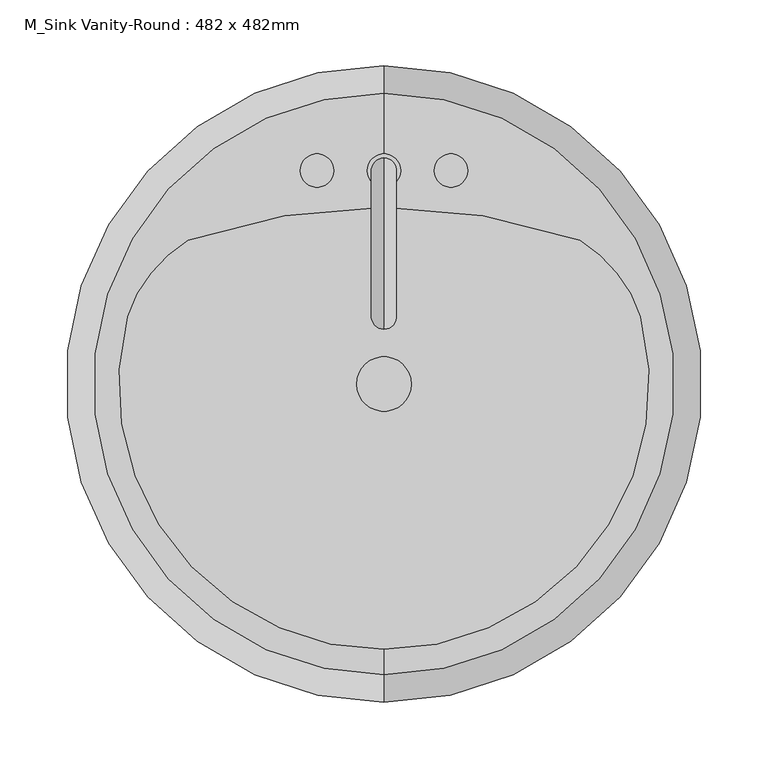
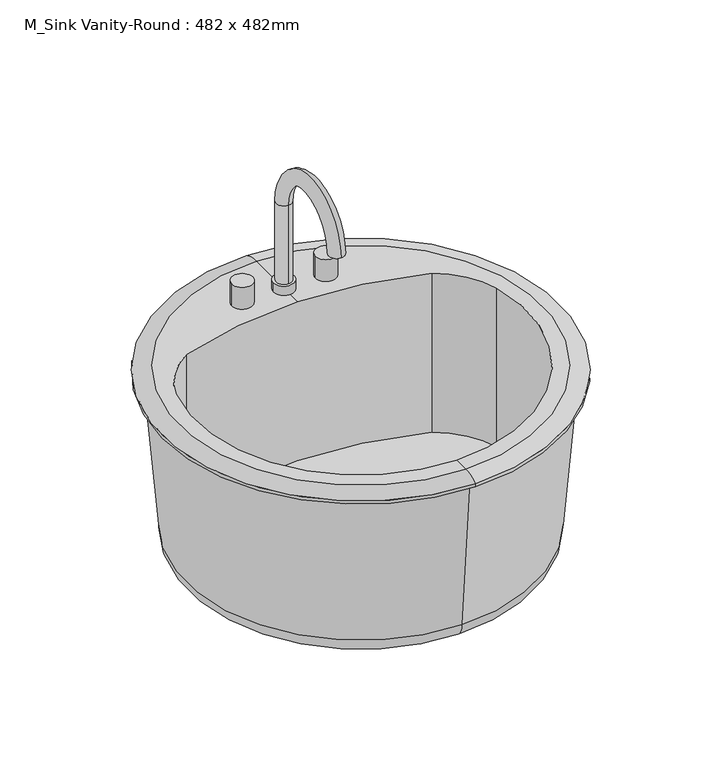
"""IFC4 building model written with IfcOpenShell, lengths in millimetres: flow terminal geometry, M_Sink Vanity-Round : 482 x 482mm."""

from ifc_helpers import new_model, si_unit, point, frame, frame_2d, origin, place, context, project, spatial, polyline, circle_curve, ellipse_curve, trimmed, segment, composite_curve, outline, extrude, source, transform, mapped, element, save
from ifc_brep_helpers import plane_surface, cylinder_surface, revolved_surface, advanced_brep


def m_sink_vanity_round_482_x_482mm_5483c1b3(model_context):
    return source(origin(), model_context, "Body", "SolidModel", [
        extrude(outline(composite_curve([segment(trimmed(circle_curve(frame_2d((96.6517406, 85.1677185)), 20.6375), [point((76.0142406, 85.1677185))], [point((117.2892406, 85.1677185))], False, "CARTESIAN"), True, "CONTINUOUS"), segment(trimmed(circle_curve(frame_2d((96.6517406, 85.1677185)), 20.6375), [point((117.2892406, 85.1677185))], [point((76.0142406, 85.1677185))], False, "CARTESIAN"), True, "CONTINUOUS")], self_intersect=False)), frame((0.0, 0.0, 534.19), z_axis=(0.0, 0.0, 1.0), x_axis=(1.0, 0.0, 0.0)), (0.0, 0.0, 1.0), 21.1842611),
        advanced_brep(
        [(96.6517406, -135.3870093, 759.615), (96.6517406, 305.7224463, 759.615), (96.6517406, 326.4677185, 754.05875), (96.6517406, -156.1322815, 754.05875), (96.6517406, -116.2405705, 759.615), (-98.1703414, 136.2525038, 759.615), (-52.1534933, 194.0861398, 759.615), (96.6517406, 219.2662048, 759.615), (245.4569744, 194.0861398, 759.615), (291.4738225, 136.2525038, 759.615), (96.6517406, -107.1264028, 534.19), (96.6517406, 277.4618398, 534.19), (96.6517406, 85.1677185, 534.19), (96.6517406, -127.6827361, 555.3742611), (96.6517406, 298.0181731, 555.3742611), (96.6517406, -144.2260315, 750.09), (96.6517406, 314.5614685, 750.09), (96.6517406, -156.1322815, 750.09), (96.6517406, 326.4677185, 750.09), (245.4569744, 194.0861398, 555.3742611), (-52.1534933, 194.0861398, 555.3742611), (-98.1703414, 136.2525038, 555.3742611), (291.4738225, 136.2525038, 555.3742611)],
        [
            (0, 1, circle_curve(frame((96.6517406, 85.1677185, 759.615), z_axis=(0.0, 0.0, -1.0), x_axis=(0.0, 1.0, 0.0)), 220.5547278)),
            (1, 2, circle_curve(frame((96.6517406, 309.4374616, 731.979434), z_axis=(-1.0, 0.0, 0.0), x_axis=(0.0, 1.0, 0.0)), 27.8841505)),
            (2, 3, circle_curve(frame((96.6517406, 85.1677185, 754.05875), z_axis=(0.0, 0.0, 1.0), x_axis=(0.0, 1.0, 0.0)), 241.3)),
            (3, 0, circle_curve(frame((96.6517406, -139.1020246, 731.979434), z_axis=(-1.0, 0.0, 0.0), x_axis=(0.0, -1.0, 0.0)), 27.8841505)),
            (1, 0, circle_curve(frame((96.6517406, 85.1677185, 759.615), z_axis=(0.0, 0.0, -1.0), x_axis=(0.0, 1.0, 0.0)), 220.5547278)),
            (3, 2, circle_curve(frame((96.6517406, 85.1677185, 754.05875), z_axis=(0.0, 0.0, 1.0), x_axis=(0.0, 1.0, 0.0)), 241.3)),
            (0, 4),
            (4, 5, circle_curve(frame((96.6517406, 85.1677185, 759.615), z_axis=(0.0, 0.0, -1.0), x_axis=(1.0, 0.0, 0.0)), 201.408289)),
            (5, 6, circle_curve(frame((1.3689689, 104.2755165, 759.615), z_axis=(0.0, 0.0, -1.0), x_axis=(1.0, 0.0, 0.0)), 104.5495194)),
            (6, 7, circle_curve(frame((96.6517406, -233.0168462, 759.615), z_axis=(0.0, 0.0, -1.0), x_axis=(1.0, 0.0, 0.0)), 452.283051)),
            (7, 1),
            (7, 8, circle_curve(frame((96.6517406, -233.0168462, 759.615), z_axis=(0.0, 0.0, -1.0), x_axis=(1.0, 0.0, 0.0)), 452.283051)),
            (8, 9, circle_curve(frame((191.9345122, 104.2755165, 759.615), z_axis=(0.0, 0.0, -1.0), x_axis=(1.0, 0.0, 0.0)), 104.5495194)),
            (9, 4, circle_curve(frame((96.6517406, 85.1677185, 759.615), z_axis=(0.0, 0.0, -1.0), x_axis=(1.0, 0.0, 0.0)), 201.408289)),
            (10, 11, circle_curve(frame((96.6517406, 85.1677185, 534.19), z_axis=(0.0, 0.0, -1.0), x_axis=(0.0, 1.0, 0.0)), 192.2941213)),
            (11, 12),
            (12, 10),
            (11, 10, circle_curve(frame((96.6517406, 85.1677185, 534.19), z_axis=(0.0, 0.0, -1.0), x_axis=(0.0, 1.0, 0.0)), 192.2941213)),
            (10, 13, circle_curve(frame((96.6517406, -107.1264028, 554.7556396), z_axis=(-1.0, 0.0, 0.0), x_axis=(0.0, -1.0, 0.0)), 20.5656396)),
            (13, 14, circle_curve(frame((96.6517406, 85.1677185, 555.3742611), z_axis=(0.0, 0.0, -1.0), x_axis=(0.0, 1.0, 0.0)), 212.8504546)),
            (14, 11, circle_curve(frame((96.6517406, 277.4618398, 554.7556396), z_axis=(-1.0, 0.0, 0.0), x_axis=(0.0, 1.0, 0.0)), 20.5656396)),
            (14, 13, circle_curve(frame((96.6517406, 85.1677185, 555.3742611), z_axis=(0.0, 0.0, -1.0), x_axis=(0.0, 1.0, 0.0)), 212.8504546)),
            (13, 15),
            (15, 16, circle_curve(frame((96.6517406, 85.1677185, 750.09), z_axis=(0.0, 0.0, -1.0), x_axis=(0.0, 1.0, 0.0)), 229.39375)),
            (16, 14),
            (16, 15, circle_curve(frame((96.6517406, 85.1677185, 750.09), z_axis=(0.0, 0.0, -1.0), x_axis=(0.0, 1.0, 0.0)), 229.39375)),
            (15, 17),
            (17, 18, circle_curve(frame((96.6517406, 85.1677185, 750.09), z_axis=(0.0, 0.0, -1.0), x_axis=(0.0, 1.0, 0.0)), 241.3)),
            (18, 16),
            (18, 17, circle_curve(frame((96.6517406, 85.1677185, 750.09), z_axis=(0.0, 0.0, -1.0), x_axis=(0.0, 1.0, 0.0)), 241.3)),
            (2, 18),
            (17, 3),
            (19, 20, circle_curve(frame((96.6517406, -233.0168462, 555.3742611), z_axis=(0.0, 0.0, 1.0), x_axis=(1.0, 0.0, 0.0)), 452.283051)),
            (20, 21, circle_curve(frame((1.3689689, 104.2755165, 555.3742611), z_axis=(0.0, 0.0, 1.0), x_axis=(1.0, 0.0, 0.0)), 104.5495194)),
            (21, 22, circle_curve(frame((96.6517406, 85.1677185, 555.3742611), z_axis=(0.0, 0.0, 1.0), x_axis=(1.0, 0.0, 0.0)), 201.408289)),
            (22, 19, circle_curve(frame((191.9345122, 104.2755165, 555.3742611), z_axis=(0.0, 0.0, 1.0), x_axis=(1.0, 0.0, 0.0)), 104.5495194)),
            (19, 8),
            (6, 20),
            (5, 21),
            (9, 22),
        ],
        [
            revolved_surface(trimmed(ellipse_curve(frame((96.6517406, 309.4374616, 731.979434), z_axis=(1.0, 0.0, 0.0), x_axis=(0.0, 1.0, 0.0)), 27.8841505, 27.8841505), [point((96.6517406, 326.4677185, 754.05875))], [point((96.6517406, 305.7224463, 759.615))], True, "CARTESIAN"), (96.6517406, 85.1677185, 759.615), (0.0, 0.0, 1.0)),
            plane_surface(frame((96.6517406, 85.1677185, 759.615), z_axis=(0.0, 0.0, 1.0), x_axis=(0.0, 1.0, 0.0))),
            plane_surface(frame((96.6517406, 85.1677185, 534.19), z_axis=(0.0, 0.0, -1.0), x_axis=(0.0, 1.0, 0.0))),
            revolved_surface(trimmed(ellipse_curve(frame((96.6517406, 277.4618398, 554.7556396), z_axis=(1.0, 0.0, 0.0), x_axis=(0.0, 1.0, 0.0)), 20.5656396, 20.5656396), [point((96.6517406, 277.4618398, 534.19))], [point((96.6517406, 298.0181731, 555.3742611))], True, "CARTESIAN"), (96.6517406, 85.1677185, 759.615), (0.0, 0.0, 1.0)),
            revolved_surface(polyline([(96.6517406, 298.0181731, 555.3742611), (96.6517406, 314.5614685, 750.09)]), (96.6517406, 85.1677185, 759.615), (0.0, 0.0, 1.0)),
            plane_surface(frame((96.6517406, 85.1677185, 750.09), z_axis=(0.0, 0.0, -1.0), x_axis=(0.0, 1.0, 0.0))),
            cylinder_surface(frame((96.6517406, 85.1677185, 759.615), z_axis=(0.0, 0.0, 1.0), x_axis=(0.0, 1.0, 0.0)), 241.3),
            plane_surface(frame((548.9347916, -233.0168462, 555.3742611), z_axis=(0.0, 0.0, 1.0), x_axis=(0.0, -1.0, 0.0))),
            revolved_surface(polyline([(548.9347916, -233.0168462, 759.615), (548.9347916, -233.0168462, 555.3742611)]), (96.6517406, -233.0168462, 555.3742611), (0.0, 0.0, 1.0)),
            revolved_surface(polyline([(105.91848829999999, 104.2755165, 759.615), (105.91848829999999, 104.2755165, 555.3742611)]), (1.3689689, 104.2755165, 555.3742611), (0.0, 0.0, 1.0)),
            revolved_surface(polyline([(298.0600296, 85.1677185, 759.615), (298.0600296, 85.1677185, 555.3742611)]), (96.6517406, 85.1677185, 555.3742611), (0.0, 0.0, 1.0)),
            revolved_surface(polyline([(296.4840316, 104.2755165, 759.615), (296.4840316, 104.2755165, 555.3742611)]), (191.9345122, 104.2755165, 555.3742611), (0.0, 0.0, 1.0)),
        ],
        [
            (0, [[1, 2, 3, 4]]),
            (0, [[-2, 5, -4, 6]]),
            (1, [[-1, 7, 8, 9, 10, 11]]),
            (1, [[-5, -11, 12, 13, 14, -7]]),
            (2, [[15, 16, 17]]),
            (2, [[-16, 18, -17]]),
            (3, [[-15, 19, 20, 21]]),
            (3, [[-18, -21, 22, -19]]),
            (4, [[-20, 23, 24, 25]]),
            (4, [[-22, -25, 26, -23]]),
            (5, [[-24, 27, 28, 29]]),
            (5, [[-26, -29, 30, -27]]),
            (6, [[-3, 31, -28, 32]]),
            (6, [[-6, -32, -30, -31]]),
            (7, [[33, 34, 35, 36]]),
            (8, [[-33, 37, -12, -10, 38]]),
            (9, [[-34, -38, -9, 39]]),
            (10, [[-35, -39, -8, -14, 40]]),
            (11, [[-36, -40, -13, -37]]),
        ],
    ),
        advanced_brep(
        [(83.9517406, 247.0927185, 771.8502909), (109.3517406, 247.0927185, 771.8502909), (96.6517406, 237.5677185, 771.8502909), (96.6517406, 256.6177185, 771.8502909), (83.9517406, 247.0927185, 759.615), (109.3517406, 247.0927185, 759.615), (96.6517406, 237.5677185, 872.3275), (96.6517406, 256.6177185, 872.3275), (96.6517406, 145.7775038, 872.3275), (96.6517406, 126.7275038, 872.3275)],
        [
            (0, 1, circle_curve(frame((96.6517406, 247.0927185, 771.8502909), z_axis=(0.0, 0.0, 1.0), x_axis=(1.0, 0.0, 0.0)), 12.7)),
            (1, 0, circle_curve(frame((96.6517406, 247.0927185, 771.8502909), z_axis=(0.0, 0.0, 1.0), x_axis=(1.0, 0.0, 0.0)), 12.7)),
            (2, 3, circle_curve(frame((96.6517406, 247.0927185, 771.8502909), z_axis=(0.0, 0.0, -1.0), x_axis=(0.0, 1.0, 0.0)), 9.525)),
            (3, 2, circle_curve(frame((96.6517406, 247.0927185, 771.8502909), z_axis=(0.0, 0.0, -1.0), x_axis=(0.0, 1.0, 0.0)), 9.525)),
            (4, 5, circle_curve(frame((96.6517406, 247.0927185, 759.615), z_axis=(0.0, 0.0, -1.0), x_axis=(1.0, 0.0, 0.0)), 12.7)),
            (5, 4, circle_curve(frame((96.6517406, 247.0927185, 759.615), z_axis=(0.0, 0.0, -1.0), x_axis=(1.0, 0.0, 0.0)), 12.7)),
            (0, 4),
            (5, 1),
            (6, 7, circle_curve(frame((96.6517406, 247.0927185, 872.3275), z_axis=(0.0, 0.0, -1.0), x_axis=(0.0, 1.0, 0.0)), 9.525)),
            (7, 3),
            (2, 6),
            (7, 6, circle_curve(frame((96.6517406, 247.0927185, 872.3275), z_axis=(0.0, 0.0, -1.0), x_axis=(0.0, 1.0, 0.0)), 9.525)),
            (8, 9, circle_curve(frame((96.6517406, 136.2525038, 872.3275), z_axis=(0.0, 0.0, -1.0), x_axis=(0.0, -1.0, 0.0)), 9.525)),
            (9, 8, circle_curve(frame((96.6517406, 136.2525038, 872.3275), z_axis=(0.0, 0.0, -1.0), x_axis=(0.0, -1.0, 0.0)), 9.525)),
            (6, 8, circle_curve(frame((96.6517406, 191.6726112, 872.3275), z_axis=(1.0, 0.0, 0.0), x_axis=(0.0, 1.0, 0.0)), 45.8951073)),
            (9, 7, circle_curve(frame((96.6517406, 191.6726112, 872.3275), z_axis=(-1.0, 0.0, 0.0), x_axis=(0.0, 1.0, 0.0)), 64.9451073)),
        ],
        [
            plane_surface(frame((109.3517406, 247.0927185, 771.8502909), z_axis=(0.0, 0.0, 1.0), x_axis=(0.0, 1.0, 0.0))),
            plane_surface(frame((109.3517406, 247.0927185, 759.615), z_axis=(0.0, 0.0, -1.0), x_axis=(0.0, -1.0, 0.0))),
            cylinder_surface(frame((96.6517406, 247.0927185, 759.615), z_axis=(0.0, 0.0, 1.0), x_axis=(1.0, 0.0, 0.0)), 12.7),
            cylinder_surface(frame((96.6517406, 247.0927185, 759.615), z_axis=(0.0, 0.0, -1.0), x_axis=(0.0, 1.0, 0.0)), 9.525),
            plane_surface(frame((96.6517406, 191.6726112, 872.3275), z_axis=(0.0, 0.0, -1.0), x_axis=(0.0, -1.0, 0.0))),
            revolved_surface(trimmed(ellipse_curve(frame((96.6517406, 247.0927185, 872.3275), z_axis=(0.0, 0.0, -1.0), x_axis=(0.0, 1.0, 0.0)), 9.525, 9.525), [point((96.6517406, 237.5677185, 872.3275))], [point((96.6517406, 256.6177185, 872.3275))], True, "CARTESIAN"), (96.6517406, 191.6726112, 872.3275), (1.0, 0.0, 0.0)),
            revolved_surface(trimmed(ellipse_curve(frame((96.6517406, 247.0927185, 872.3275), z_axis=(0.0, 0.0, -1.0), x_axis=(0.0, 1.0, 0.0)), 9.525, 9.525), [point((96.6517406, 256.6177185, 872.3275))], [point((96.6517406, 237.5677185, 872.3275))], True, "CARTESIAN"), (96.6517406, 191.6726112, 872.3275), (1.0, 0.0, 0.0)),
        ],
        [
            (0, [[1, 2], [3, 4]]),
            (1, [[5, 6]]),
            (2, [[-1, 7, -6, 8]]),
            (2, [[-2, -8, -5, -7]]),
            (3, [[9, 10, -3, 11]]),
            (3, [[12, -11, -4, -10]]),
            (4, [[13, 14]]),
            (5, [[-9, 15, -14, 16]]),
            (6, [[-12, -16, -13, -15]]),
        ],
    ),
        extrude(outline(composite_curve([segment(trimmed(circle_curve(frame_2d((45.8517406, 247.0927185)), 12.7), [point((33.1517406, 247.0927185))], [point((58.5517406, 247.0927185))], False, "CARTESIAN"), True, "CONTINUOUS"), segment(trimmed(circle_curve(frame_2d((45.8517406, 247.0927185)), 12.7), [point((58.5517406, 247.0927185))], [point((33.1517406, 247.0927185))], False, "CARTESIAN"), True, "CONTINUOUS")], self_intersect=False)), frame((0.0, 0.0, 759.615), z_axis=(0.0, 0.0, 1.0), x_axis=(1.0, 0.0, 0.0)), (0.0, 0.0, 1.0), 28.575),
        extrude(outline(composite_curve([segment(trimmed(circle_curve(frame_2d((147.4517406, 247.0927185)), 12.7), [point((134.7517406, 247.0927185))], [point((160.1517406, 247.0927185))], False, "CARTESIAN"), True, "CONTINUOUS"), segment(trimmed(circle_curve(frame_2d((147.4517406, 247.0927185)), 12.7), [point((160.1517406, 247.0927185))], [point((134.7517406, 247.0927185))], False, "CARTESIAN"), True, "CONTINUOUS")], self_intersect=False)), frame((0.0, 0.0, 759.615), z_axis=(0.0, 0.0, 1.0), x_axis=(1.0, 0.0, 0.0)), (0.0, 0.0, 1.0), 28.575),
    ])


if __name__ == "__main__":
    model = new_model("IFC4")
    model_context = context("Model", 3, world=origin())
    ifc_project = project(units=[si_unit("LENGTHUNIT", "METRE", prefix="MILLI")], contexts=[model_context])
    site = spatial("IfcSite", under=ifc_project)
    building = spatial("IfcBuilding", under=site)
    placement = place(None, origin())
    m_sink_vanity_round_482_x_482mm_shape = m_sink_vanity_round_482_x_482mm_5483c1b3(model_context)
    element("IfcFlowTerminal", 1, ObjectType="M_Sink Vanity-Round : 482 x 482mm", at=placement, inside=building, context=model_context, shape_type="MappedRepresentation", body=[
        mapped(m_sink_vanity_round_482_x_482mm_shape, transform((0.0, 0.0, 0.0), x_axis=(1.0, 0.0, 0.0), y_axis=(0.0, 1.0, 0.0), z_axis=(0.0, 0.0, 1.0))),
    ])
    save(model, "model.ifc")
